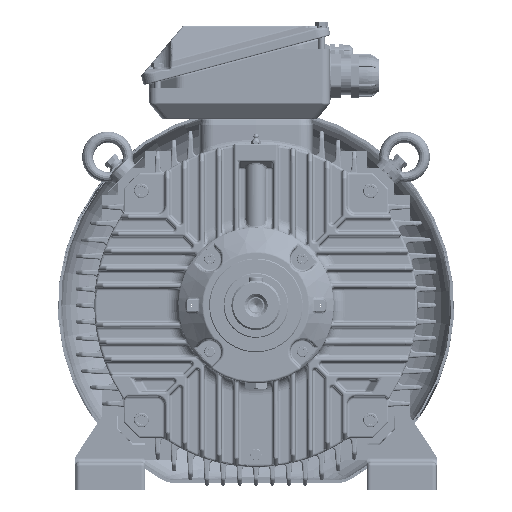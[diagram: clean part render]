
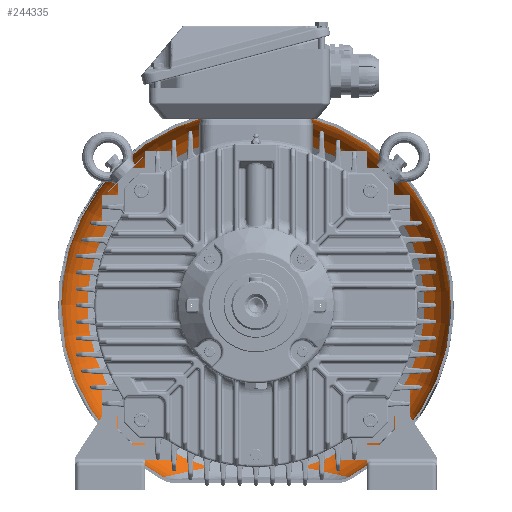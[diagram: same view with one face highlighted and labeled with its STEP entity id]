
A CAD part, front view. The second image highlights one B-rep face of the part: STEP entity #244335.
In plain terms, the highlighted toroidal (fillet/blend) face has major radius 173 mm and minor radius 65 mm.
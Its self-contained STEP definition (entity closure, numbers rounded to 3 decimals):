
#3054=TOROIDAL_SURFACE('',#255556,173.,65.);
#39474=CIRCLE('',#255359,205.5);
#39576=CIRCLE('',#255557,238.);
#68563=ORIENTED_EDGE('',*,*,#108444,.T.);
#68564=ORIENTED_EDGE('',*,*,#108438,.T.);
#68565=ORIENTED_EDGE('',*,*,#108211,.F.);
#68566=ORIENTED_EDGE('',*,*,#108443,.T.);
#108211=EDGE_CURVE('',#130021,#130022,#39474,.T.);
#108438=EDGE_CURVE('',#130165,#130022,#139026,.T.);
#108443=EDGE_CURVE('',#130021,#130170,#139029,.T.);
#108444=EDGE_CURVE('',#130170,#130165,#39576,.T.);
#130021=VERTEX_POINT('',#342196);
#130022=VERTEX_POINT('',#342197);
#130165=VERTEX_POINT('',#342826);
#130170=VERTEX_POINT('',#342934);
#139026=B_SPLINE_CURVE_WITH_KNOTS('',3,(#342842,#342843,#342844,#342845,
#342846,#342847,#342848,#342849,#342850,#342851,#342852,#342853,#342854,
#342855),.UNSPECIFIED.,.F.,.F.,(4,1,1,1,1,1,1,1,1,1,1,4),(0.,0.011,
0.016,0.022,0.027,0.032,
0.043,0.049,0.054,0.065,
0.075,0.086),.UNSPECIFIED.);
#139029=B_SPLINE_CURVE_WITH_KNOTS('',3,(#342935,#342936,#342937,#342938,
#342939,#342940,#342941,#342942,#342943,#342944,#342945,#342946,#342947,
#342948,#342949),.UNSPECIFIED.,.F.,.F.,(4,1,1,1,1,1,1,1,1,1,1,1,4),(0.203,
0.213,0.219,0.224,0.235,
0.246,0.251,0.257,0.267,0.273,
0.278,0.284,0.289),.UNSPECIFIED.);
#146987=EDGE_LOOP('',(#68563,#68564,#68565,#68566));
#159571=FACE_BOUND('',#146987,.T.);
#244335=ADVANCED_FACE('',(#159571),#3054,.F.);
#255359=AXIS2_PLACEMENT_3D('',#342195,#286940,#286941);
#255556=AXIS2_PLACEMENT_3D('',#342950,#287418,#287419);
#255557=AXIS2_PLACEMENT_3D('',#342951,#287420,#287421);
#286940=DIRECTION('',(0.,-1.,0.));
#286941=DIRECTION('',(-1.,0.,0.));
#287418=DIRECTION('',(0.,-1.,0.));
#287419=DIRECTION('',(-1.,0.,0.));
#287420=DIRECTION('',(0.,-1.,0.));
#287421=DIRECTION('',(-1.,0.,0.));
#342195=CARTESIAN_POINT('',(0.,638.195,0.));
#342196=CARTESIAN_POINT('',(57.094,638.195,-197.409));
#342197=CARTESIAN_POINT('',(-57.094,638.195,-197.409));
#342826=CARTESIAN_POINT('',(-113.128,581.903,-209.394));
#342842=CARTESIAN_POINT('',(-113.128,581.903,-209.394));
#342843=CARTESIAN_POINT('',(-113.128,585.554,-209.394));
#342844=CARTESIAN_POINT('',(-112.459,590.895,-209.241));
#342845=CARTESIAN_POINT('',(-110.291,597.837,-208.746));
#342846=CARTESIAN_POINT('',(-108.092,602.783,-208.245));
#342847=CARTESIAN_POINT('',(-105.396,607.429,-207.631));
#342848=CARTESIAN_POINT('',(-101.144,613.287,-206.666));
#342849=CARTESIAN_POINT('',(-96.206,618.377,-205.551));
#342850=CARTESIAN_POINT('',(-90.694,622.852,-204.321));
#342851=CARTESIAN_POINT('',(-84.814,626.935,-203.025));
#342852=CARTESIAN_POINT('',(-77.103,631.19,-201.36));
#342853=CARTESIAN_POINT('',(-67.345,635.22,-199.346));
#342854=CARTESIAN_POINT('',(-60.523,637.298,-198.035));
#342855=CARTESIAN_POINT('',(-57.094,638.195,-197.409));
#342934=CARTESIAN_POINT('',(113.128,581.903,-209.394));
#342935=CARTESIAN_POINT('',(57.094,638.195,-197.409));
#342936=CARTESIAN_POINT('',(60.525,637.297,-198.035));
#342937=CARTESIAN_POINT('',(65.604,635.751,-199.011));
#342938=CARTESIAN_POINT('',(72.207,633.212,-200.35));
#342939=CARTESIAN_POINT('',(78.717,630.307,-201.708));
#342940=CARTESIAN_POINT('',(86.438,626.023,-203.376));
#342941=CARTESIAN_POINT('',(93.478,620.775,-204.94));
#342942=CARTESIAN_POINT('',(98.643,615.866,-206.101));
#342943=CARTESIAN_POINT('',(103.416,610.448,-207.18));
#342944=CARTESIAN_POINT('',(107.336,604.48,-208.073));
#342945=CARTESIAN_POINT('',(110.3,597.814,-208.748));
#342946=CARTESIAN_POINT('',(111.902,592.682,-209.114));
#342947=CARTESIAN_POINT('',(112.897,587.389,-209.341));
#342948=CARTESIAN_POINT('',(113.128,583.733,-209.394));
#342949=CARTESIAN_POINT('',(113.128,581.903,-209.394));
#342950=CARTESIAN_POINT('',(0.,581.903,0.));
#342951=CARTESIAN_POINT('',(0.,581.903,0.));
